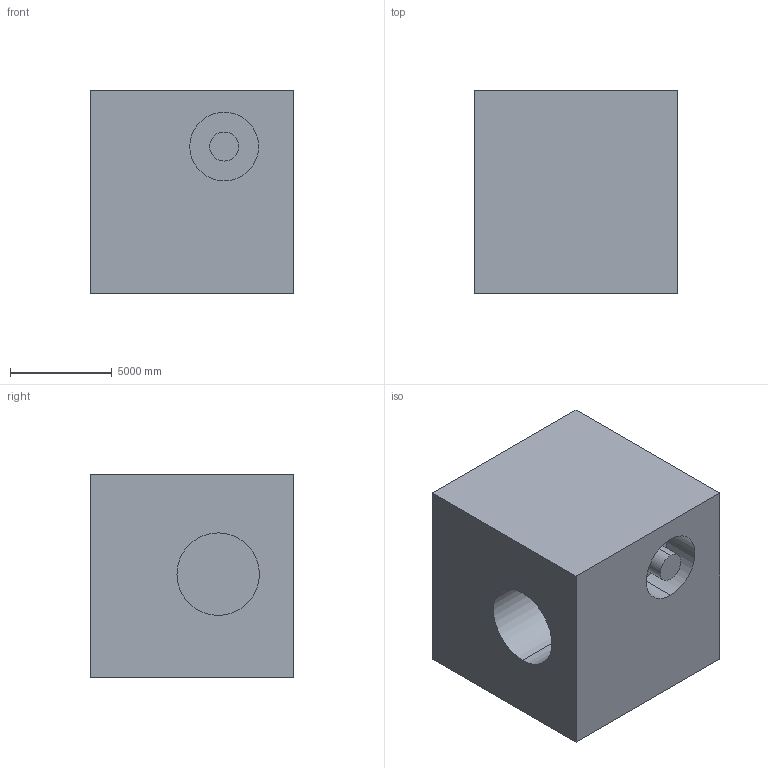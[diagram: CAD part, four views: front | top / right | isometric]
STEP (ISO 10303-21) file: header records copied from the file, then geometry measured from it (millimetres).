
FILE_DESCRIPTION (( 'STEP AP203' ), '1' );
FILE_NAME ('175.STEP', '2022-07-28T13:48:56', ( 'user' ), ( '' ), 'SwSTEP 2.0', 'SolidWorks 2021', '' );
FILE_SCHEMA (( 'CONFIG_CONTROL_DESIGN' ));
Length unit declared in the file: centimetre
Products named in the file (1): 175
Bounding box: 10000 x 10000 x 10000 mm (x, y, z)
Volume: 931433782283.6 mm3; surface area: 682623331.7 mm2
Topology: 1 solids, 1 shells, 15 faces, 30 edges, 20 vertices
Faces by surface type: plane 9, cylinder 6
Entity records: 473 total; most frequent: DIRECTION 74, CARTESIAN_POINT 66, ORIENTED_EDGE 60, EDGE_CURVE 30, AXIS2_PLACEMENT_3D 28, VERTEX_POINT 20, EDGE_LOOP 18, LINE 18
